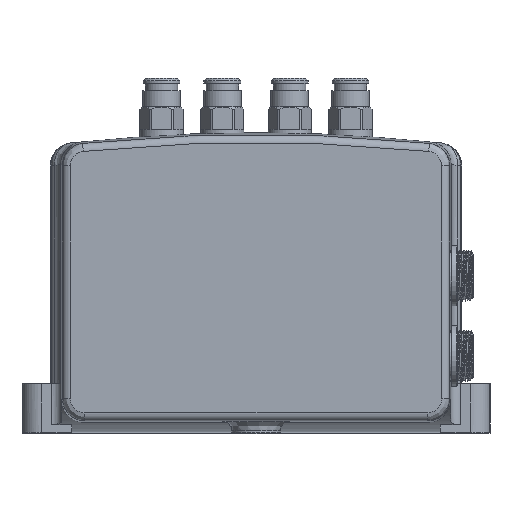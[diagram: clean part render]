
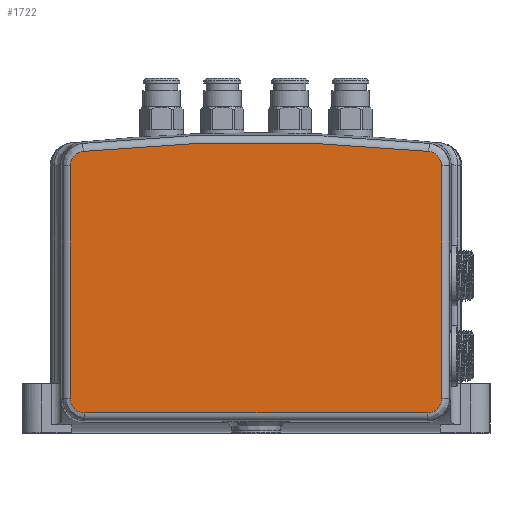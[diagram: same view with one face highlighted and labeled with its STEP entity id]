
A CAD part, front view. The second image highlights one B-rep face of the part: STEP entity #1722.
In plain terms, the highlighted planar face has unit normal (0, -1, 0).
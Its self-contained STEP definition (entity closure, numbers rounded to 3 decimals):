
#2=DIRECTION('',(0.,0.,-1.));
#3=VECTOR('',#2,72.741);
#4=CARTESIAN_POINT('',(-57.972,-63.6,-10.33));
#5=LINE('',#4,#3);
#6=CARTESIAN_POINT('',(-53.941,-63.6,-5.855));
#7=CARTESIAN_POINT('',(-54.257,-63.6,-5.888));
#8=CARTESIAN_POINT('',(-54.866,-63.6,-6.018));
#9=CARTESIAN_POINT('',(-55.737,-63.6,-6.404));
#10=CARTESIAN_POINT('',(-56.504,-63.6,-6.961));
#11=CARTESIAN_POINT('',(-57.139,-63.6,-7.666));
#12=CARTESIAN_POINT('',(-57.613,-63.6,-8.487));
#13=CARTESIAN_POINT('',(-57.906,-63.6,-9.393));
#14=CARTESIAN_POINT('',(-57.972,-63.6,-10.013));
#15=CARTESIAN_POINT('',(-57.972,-63.6,-10.33));
#17=CARTESIAN_POINT('',(0.,-63.6,-520.));
#18=DIRECTION('',(0.,-1.,0.));
#19=DIRECTION('',(0.104,0.,0.995));
#20=AXIS2_PLACEMENT_3D('',#17,#18,#19);
#22=CARTESIAN_POINT('',(57.972,-63.6,-10.33));
#23=CARTESIAN_POINT('',(57.972,-63.6,-10.013));
#24=CARTESIAN_POINT('',(57.906,-63.6,-9.393));
#25=CARTESIAN_POINT('',(57.613,-63.6,-8.487));
#26=CARTESIAN_POINT('',(57.139,-63.6,-7.666));
#27=CARTESIAN_POINT('',(56.504,-63.6,-6.961));
#28=CARTESIAN_POINT('',(55.737,-63.6,-6.404));
#29=CARTESIAN_POINT('',(54.866,-63.6,-6.018));
#30=CARTESIAN_POINT('',(54.257,-63.6,-5.888));
#31=CARTESIAN_POINT('',(53.941,-63.6,-5.855));
#33=DIRECTION('',(0.,0.,1.));
#34=VECTOR('',#33,72.741);
#35=CARTESIAN_POINT('',(57.972,-63.6,-83.072));
#36=LINE('',#35,#34);
#37=CARTESIAN_POINT('',(53.472,-63.6,-87.571));
#38=CARTESIAN_POINT('',(53.812,-63.6,-87.571));
#39=CARTESIAN_POINT('',(54.475,-63.6,-87.497));
#40=CARTESIAN_POINT('',(55.439,-63.6,-87.161));
#41=CARTESIAN_POINT('',(56.3,-63.6,-86.62));
#42=CARTESIAN_POINT('',(57.02,-63.6,-85.901));
#43=CARTESIAN_POINT('',(57.561,-63.6,-85.04));
#44=CARTESIAN_POINT('',(57.897,-63.6,-84.075));
#45=CARTESIAN_POINT('',(57.972,-63.6,-83.412));
#46=CARTESIAN_POINT('',(57.972,-63.6,-83.072));
#48=DIRECTION('',(1.,0.,0.));
#49=VECTOR('',#48,106.944);
#50=CARTESIAN_POINT('',(-53.472,-63.6,-87.571));
#51=LINE('',#50,#49);
#52=CARTESIAN_POINT('',(-57.972,-63.6,-83.072));
#53=CARTESIAN_POINT('',(-57.972,-63.6,-83.412));
#54=CARTESIAN_POINT('',(-57.897,-63.6,-84.075));
#55=CARTESIAN_POINT('',(-57.561,-63.6,-85.04));
#56=CARTESIAN_POINT('',(-57.02,-63.6,-85.901));
#57=CARTESIAN_POINT('',(-56.3,-63.6,-86.62));
#58=CARTESIAN_POINT('',(-55.439,-63.6,-87.161));
#59=CARTESIAN_POINT('',(-54.475,-63.6,-87.497));
#60=CARTESIAN_POINT('',(-53.812,-63.6,-87.571));
#61=CARTESIAN_POINT('',(-53.472,-63.6,-87.571));
#1555=CARTESIAN_POINT('',(-57.972,-63.6,
-10.33));
#1556=CARTESIAN_POINT('',(-57.972,-63.6,
-83.072));
#1557=VERTEX_POINT('',#1555);
#1558=VERTEX_POINT('',#1556);
#1559=VERTEX_POINT('',#6);
#1561=CARTESIAN_POINT('',(53.941,-63.6,-5.855));
#1562=VERTEX_POINT('',#1561);
#1565=VERTEX_POINT('',#22);
#1567=CARTESIAN_POINT('',(57.972,-63.6,
-83.072));
#1568=VERTEX_POINT('',#1567);
#1593=VERTEX_POINT('',#61);
#1595=CARTESIAN_POINT('',(53.472,-63.6,
-87.571));
#1596=VERTEX_POINT('',#1595);
#1699=CARTESIAN_POINT('',(0.,-63.6,0.));
#1700=DIRECTION('',(0.,1.,0.));
#1701=DIRECTION('',(1.,0.,0.));
#1702=AXIS2_PLACEMENT_3D('',#1699,#1700,#1701);
#1703=PLANE('',#1702);
#1705=ORIENTED_EDGE('',*,*,#1704,.F.);
#1707=ORIENTED_EDGE('',*,*,#1706,.F.);
#1709=ORIENTED_EDGE('',*,*,#1708,.F.);
#1711=ORIENTED_EDGE('',*,*,#1710,.F.);
#1713=ORIENTED_EDGE('',*,*,#1712,.F.);
#1715=ORIENTED_EDGE('',*,*,#1714,.F.);
#1717=ORIENTED_EDGE('',*,*,#1716,.F.);
#1719=ORIENTED_EDGE('',*,*,#1718,.F.);
#1720=EDGE_LOOP('',(#1705,#1707,#1709,#1711,#1713,#1715,#1717,#1719));
#1721=FACE_OUTER_BOUND('',#1720,.F.);
#1722=ADVANCED_FACE('',(#1721),#1703,.F.);
#16=B_SPLINE_CURVE_WITH_KNOTS('',3,(#6,#7,#8,#9,#10,#11,#12,#13,#14,#15),
.UNSPECIFIED.,.F.,.F.,(4,1,1,1,1,1,1,4),(0.,0.143,
0.286,0.429,0.571,0.714,
0.857,1.),.UNSPECIFIED.);
#21=CIRCLE('',#20,516.967);
#32=B_SPLINE_CURVE_WITH_KNOTS('',3,(#22,#23,#24,#25,#26,#27,#28,#29,#30,#31),
.UNSPECIFIED.,.F.,.F.,(4,1,1,1,1,1,1,4),(0.,0.143,
0.286,0.429,0.571,0.714,
0.857,1.),.UNSPECIFIED.);
#47=B_SPLINE_CURVE_WITH_KNOTS('',3,(#37,#38,#39,#40,#41,#42,#43,#44,#45,#46),
.UNSPECIFIED.,.F.,.F.,(4,1,1,1,1,1,1,4),(0.,0.143,
0.286,0.429,0.571,0.714,
0.857,1.),.UNSPECIFIED.);
#62=B_SPLINE_CURVE_WITH_KNOTS('',3,(#52,#53,#54,#55,#56,#57,#58,#59,#60,#61),
.UNSPECIFIED.,.F.,.F.,(4,1,1,1,1,1,1,4),(0.,0.143,
0.286,0.429,0.571,0.714,
0.857,1.),.UNSPECIFIED.);
#1704=EDGE_CURVE('',#1557,#1558,#5,.T.);
#1706=EDGE_CURVE('',#1559,#1557,#16,.T.);
#1708=EDGE_CURVE('',#1562,#1559,#21,.T.);
#1710=EDGE_CURVE('',#1565,#1562,#32,.T.);
#1712=EDGE_CURVE('',#1568,#1565,#36,.T.);
#1714=EDGE_CURVE('',#1596,#1568,#47,.T.);
#1716=EDGE_CURVE('',#1593,#1596,#51,.T.);
#1718=EDGE_CURVE('',#1558,#1593,#62,.T.);
